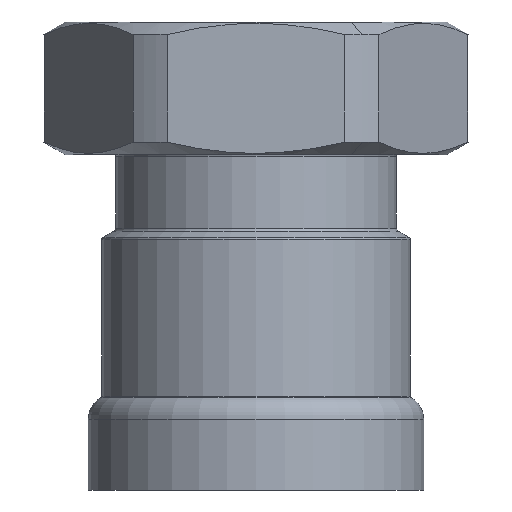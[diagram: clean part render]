
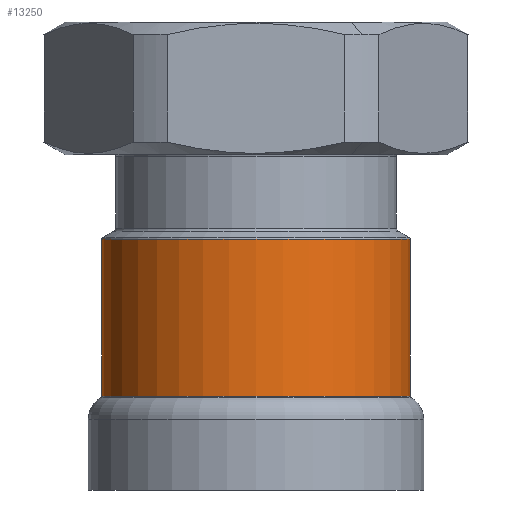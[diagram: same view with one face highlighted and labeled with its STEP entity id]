
A CAD part, front view. The second image highlights one B-rep face of the part: STEP entity #13250.
In plain terms, the highlighted cylindrical face has radius 33.95 mm (diameter 67.9 mm), a partial arc.
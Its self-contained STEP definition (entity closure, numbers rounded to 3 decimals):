
#130=CARTESIAN_POINT('',(101.967,49.095,-33.95));
#140=VERTEX_POINT('',#130);
#310=CARTESIAN_POINT('',(101.967,49.095,33.95));
#320=VERTEX_POINT('',#310);
#350=CARTESIAN_POINT('',(101.967,49.095,0.));
#360=DIRECTION('',(1.,0.,0.));
#370=DIRECTION('',(0.,0.,-1.));
#380=AXIS2_PLACEMENT_3D('',#350,#360,#370);
#390=CIRCLE('',#380,33.95);
#12890=CARTESIAN_POINT('',(87.8,49.095,0.));
#12900=DIRECTION('',(1.,0.,0.));
#12910=DIRECTION('',(0.,0.,-1.));
#12920=AXIS2_PLACEMENT_3D('',#12890,#12900,#12910);
#12930=CYLINDRICAL_SURFACE('',#12920,33.95);
#12940=CARTESIAN_POINT('',(87.8,49.095,33.95));
#12950=DIRECTION('',(1.,0.,0.));
#12960=VECTOR('',#12950,1.);
#12970=LINE('',#12940,#12960);
#12980=CARTESIAN_POINT('',(67.433,49.095,33.95));
#12990=VERTEX_POINT('',#12980);
#13000=EDGE_CURVE('',#12990,#320,#12970,.T.);
#13010=ORIENTED_EDGE('',*,*,#13000,.F.);
#13020=EDGE_CURVE('',#320,#140,#390,.T.);
#13030=ORIENTED_EDGE('',*,*,#13020,.F.);
#13040=CARTESIAN_POINT('',(87.8,49.095,-33.95));
#13050=DIRECTION('',(1.,0.,0.));
#13060=VECTOR('',#13050,1.);
#13070=LINE('',#13040,#13060);
#13080=CARTESIAN_POINT('',(67.433,49.095,-33.95));
#13090=VERTEX_POINT('',#13080);
#13100=EDGE_CURVE('',#13090,#140,#13070,.T.);
#13110=ORIENTED_EDGE('',*,*,#13100,.T.);
#13120=CARTESIAN_POINT('',(67.433,49.095,
0.));
#13130=DIRECTION('',(-1.,0.,0.));
#13140=DIRECTION('',(0.,1.,0.));
#13150=AXIS2_PLACEMENT_3D('',#13120,#13130,#13140);
#13160=CIRCLE('',#13150,33.95);
#13170=CARTESIAN_POINT('',(67.433,15.145,
0.));
#13180=VERTEX_POINT('',#13170);
#13190=EDGE_CURVE('',#13090,#13180,#13160,.T.);
#13200=ORIENTED_EDGE('',*,*,#13190,.F.);
#13210=EDGE_CURVE('',#13180,#12990,#13160,.T.);
#13220=ORIENTED_EDGE('',*,*,#13210,.F.);
#13230=EDGE_LOOP('',(#13220,#13200,#13110,#13030,#13010));
#13240=FACE_OUTER_BOUND('',#13230,.T.);
#13250=ADVANCED_FACE('',(#13240),#12930,.T.);
